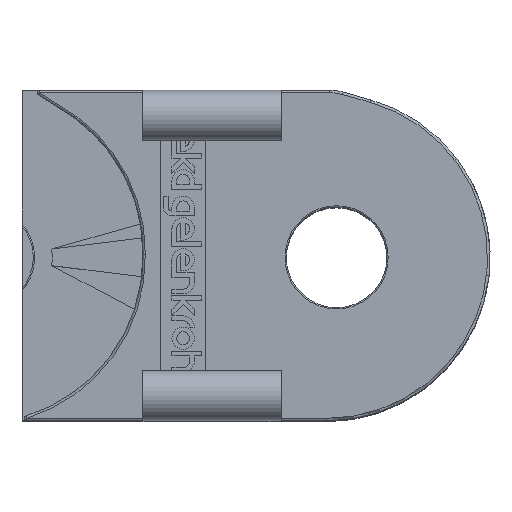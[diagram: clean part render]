
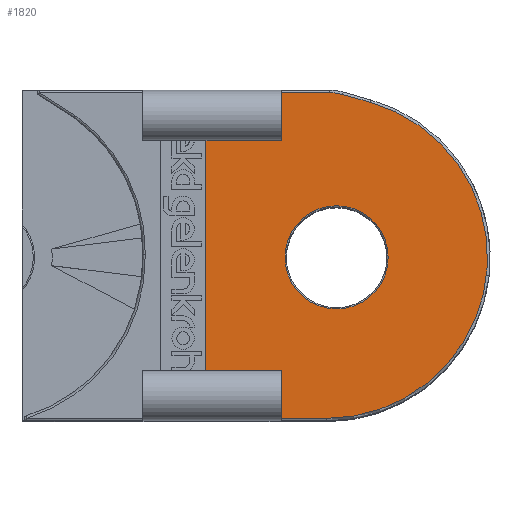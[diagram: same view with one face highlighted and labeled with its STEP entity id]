
A CAD part, top view. The second image highlights one B-rep face of the part: STEP entity #1820.
In plain terms, the highlighted planar face has unit normal (0, 0, 1).
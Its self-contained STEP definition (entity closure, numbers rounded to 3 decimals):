
#151=CARTESIAN_POINT('',(155.837,149.468,205.528));
#152=VERTEX_POINT('',#151);
#159=CARTESIAN_POINT('',(140.837,149.468,205.528));
#160=VERTEX_POINT('',#159);
#161=CARTESIAN_POINT('',(140.837,149.468,205.528));
#162=DIRECTION('',(1.0,0.0,0.0));
#163=VECTOR('',#162,15.);
#164=LINE('',#161,#163);
#165=EDGE_CURVE('',#160,#152,#164,.T.);
#1317=CARTESIAN_POINT('',(140.837,195.168,205.528));
#1318=VERTEX_POINT('',#1317);
#1377=CARTESIAN_POINT('',(155.837,195.168,205.528));
#1378=VERTEX_POINT('',#1377);
#1379=CARTESIAN_POINT('',(155.837,195.168,205.528));
#1380=DIRECTION('',(-1.0,0.0,0.0));
#1381=VECTOR('',#1380,15.);
#1382=LINE('',#1379,#1381);
#1383=EDGE_CURVE('',#1378,#1318,#1382,.T.);
#1425=CARTESIAN_POINT('',(155.837,204.668,205.528));
#1426=VERTEX_POINT('',#1425);
#1427=CARTESIAN_POINT('',(155.837,204.668,205.528));
#1428=DIRECTION('',(0.0,-1.0,0.0));
#1429=VECTOR('',#1428,9.5);
#1430=LINE('',#1427,#1429);
#1431=EDGE_CURVE('',#1426,#1378,#1430,.T.);
#1633=CARTESIAN_POINT('',(155.837,139.968,205.528));
#1634=VERTEX_POINT('',#1633);
#1642=CARTESIAN_POINT('',(155.837,149.468,205.528));
#1643=DIRECTION('',(0.0,-1.0,0.0));
#1644=VECTOR('',#1643,9.5);
#1645=LINE('',#1642,#1644);
#1646=EDGE_CURVE('',#152,#1634,#1645,.T.);
#1752=CARTESIAN_POINT('',(168.837,172.318,205.528));
#1753=DIRECTION('',(0.0,0.0,-1.0));
#1754=DIRECTION('',(-1.0,0.0,0.0));
#1755=AXIS2_PLACEMENT_3D('',#1752,#1753,#1754);
#1756=PLANE('',#1755);
#1757=ORIENTED_EDGE('',*,*,#1383,.T.);
#1758=CARTESIAN_POINT('',(140.837,195.168,205.528));
#1759=DIRECTION('',(0.0,-1.0,0.0));
#1760=VECTOR('',#1759,45.7);
#1761=LINE('',#1758,#1760);
#1762=EDGE_CURVE('',#1318,#160,#1761,.T.);
#1763=ORIENTED_EDGE('',*,*,#1762,.T.);
#1764=ORIENTED_EDGE('',*,*,#165,.T.);
#1765=ORIENTED_EDGE('',*,*,#1646,.T.);
#1766=CARTESIAN_POINT('',(164.837,139.968,205.528));
#1767=VERTEX_POINT('',#1766);
#1768=CARTESIAN_POINT('',(155.837,139.968,205.528));
#1769=DIRECTION('',(1.0,0.,0.0));
#1770=VECTOR('',#1769,9.);
#1771=LINE('',#1768,#1770);
#1772=EDGE_CURVE('',#1634,#1767,#1771,.T.);
#1773=ORIENTED_EDGE('',*,*,#1772,.T.);
#1774=CARTESIAN_POINT('',(173.507,202.771,205.528));
#1775=VERTEX_POINT('',#1774);
#1776=CARTESIAN_POINT('',(164.837,171.968,205.528));
#1777=DIRECTION('',(0.0,0.0,1.));
#1778=DIRECTION('',(0.991,-0.137,0.0));
#1779=AXIS2_PLACEMENT_3D('',#1776,#1777,#1778);
#1780=CIRCLE('',#1779,32.);
#1781=EDGE_CURVE('',#1767,#1775,#1780,.T.);
#1782=ORIENTED_EDGE('',*,*,#1781,.T.);
#1783=CARTESIAN_POINT('',(168.03,204.313,205.528));
#1784=VERTEX_POINT('',#1783);
#1785=CARTESIAN_POINT('',(173.507,202.771,205.528));
#1786=DIRECTION('',(-0.963,0.271,0.0));
#1787=VECTOR('',#1786,5.69);
#1788=LINE('',#1785,#1787);
#1789=EDGE_CURVE('',#1775,#1784,#1788,.T.);
#1790=ORIENTED_EDGE('',*,*,#1789,.T.);
#1791=CARTESIAN_POINT('',(165.456,204.668,205.528));
#1792=VERTEX_POINT('',#1791);
#1793=CARTESIAN_POINT('',(165.456,195.168,205.528));
#1794=DIRECTION('',(0.0,0.0,1.0));
#1795=DIRECTION('',(0.137,0.991,0.0));
#1796=AXIS2_PLACEMENT_3D('',#1793,#1794,#1795);
#1797=CIRCLE('',#1796,9.5);
#1798=EDGE_CURVE('',#1784,#1792,#1797,.T.);
#1799=ORIENTED_EDGE('',*,*,#1798,.T.);
#1800=CARTESIAN_POINT('',(165.456,204.668,205.528));
#1801=DIRECTION('',(-1.0,0.0,0.0));
#1802=VECTOR('',#1801,9.619);
#1803=LINE('',#1800,#1802);
#1804=EDGE_CURVE('',#1792,#1426,#1803,.T.);
#1805=ORIENTED_EDGE('',*,*,#1804,.T.);
#1806=ORIENTED_EDGE('',*,*,#1431,.T.);
#1807=EDGE_LOOP('',(#1757,#1763,#1764,#1765,#1773,#1782,#1790,#1799,#1805,#1806));
#1808=FACE_OUTER_BOUND('',#1807,.T.);
#1809=CARTESIAN_POINT('',(177.087,171.968,205.528));
#1810=VERTEX_POINT('',#1809);
#1811=CARTESIAN_POINT('',(166.837,171.968,205.528));
#1812=DIRECTION('',(0.0,0.0,-1.0));
#1813=DIRECTION('',(-1.0,0.0,0.0));
#1814=AXIS2_PLACEMENT_3D('',#1811,#1812,#1813);
#1815=CIRCLE('',#1814,10.25);
#1816=EDGE_CURVE('',#1810,#1810,#1815,.T.);
#1817=ORIENTED_EDGE('',*,*,#1816,.T.);
#1818=EDGE_LOOP('',(#1817));
#1819=FACE_BOUND('',#1818,.T.);
#1820=ADVANCED_FACE('',(#1808,#1819),#1756,.F.);
